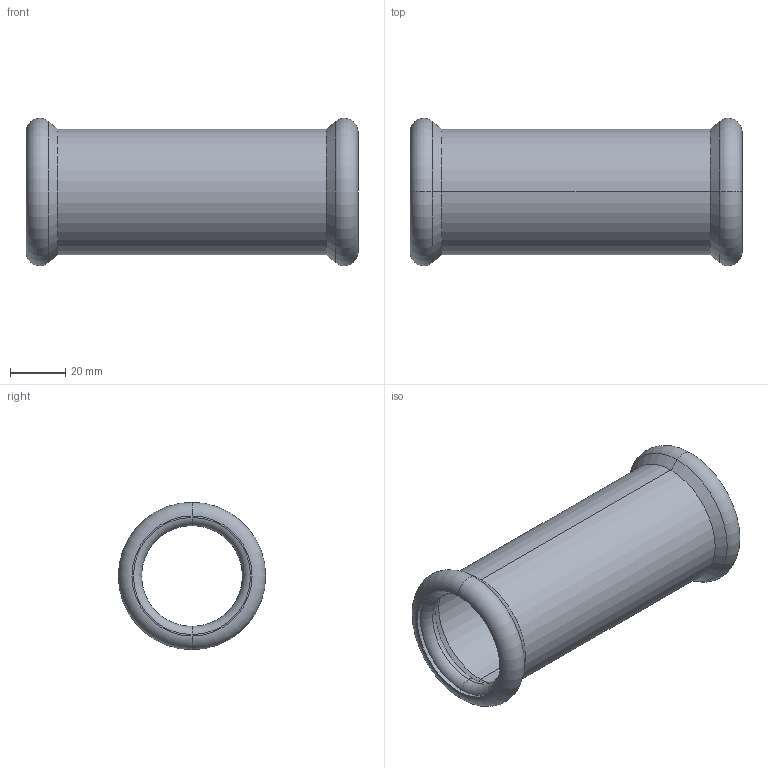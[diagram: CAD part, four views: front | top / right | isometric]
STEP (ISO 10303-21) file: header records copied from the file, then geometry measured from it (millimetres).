
FILE_DESCRIPTION (( 'STEP AP214' ), '1' );
FILE_NAME ('S42000K.STEP', '2025-08-17T07:30:07', ( '' ), ( '' ), 'SwSTEP 2.0', 'SolidWorks 2020', '' );
FILE_SCHEMA (( 'AUTOMOTIVE_DESIGN' ));
Length unit declared in the file: millimetre
Products named in the file (1): S42000K
Bounding box: 120 x 53.3 x 53.3 mm (x, y, z)
Volume: 37107.9 mm3; surface area: 37375.4 mm2
Topology: 1 solids, 1 shells, 32 faces, 64 edges, 36 vertices
Faces by surface type: torus 12, cone 8, cylinder 8, plane 4
Entity records: 1138 total; most frequent: DIRECTION 178, CARTESIAN_POINT 133, ORIENTED_EDGE 128, AXIS2_PLACEMENT_3D 81, EDGE_CURVE 64, CIRCLE 48, EDGE_LOOP 36, VERTEX_POINT 36
